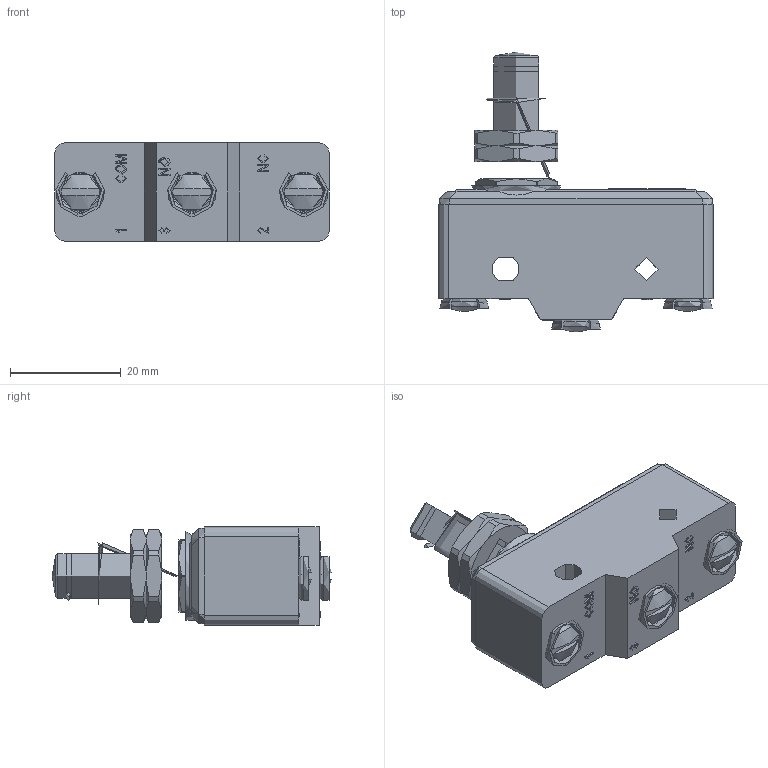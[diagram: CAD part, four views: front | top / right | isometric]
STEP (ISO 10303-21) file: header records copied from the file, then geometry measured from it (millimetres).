
FILE_DESCRIPTION((''),'2; 1');
FILE_NAME('','2026-03-27T16:27:22',(''),(''),'CST STEP Exporter V1.0','Unknown','');
FILE_SCHEMA(('CONFIG_CONTROL_DESIGN'));
Length unit declared in the file: metre
Assembly tree (13 placements, depth 2):
  (unnamed)
    (unnamed)
    (unnamed)
    (unnamed)
    (unnamed)
    (unnamed)
    (unnamed)
    (unnamed)
    (unnamed)
    (unnamed)
    (unnamed)
    (unnamed)
    (unnamed)
    (unnamed)
Bounding box: 49.4 x 50.38 x 17.7 mm (x, y, z)
Topology: 0 solids, 18 shells, 459 faces, 1274 edges, 852 vertices
Faces by surface type: plane 291, extrusion 61, cylinder 56, cone 32, torus 9, revolution 6, bspline 3, sphere 1
Full cylindrical faces by diameter (mm): 4.2 x1, 6.9 x3, 8.1 x2, 12 x1, 16 x1
Entity records: 21757 total; most frequent: CARTESIAN_POINT 6991, ORIENTED_EDGE 2360, DIRECTION 1903, EDGE_CURVE 1253, VECTOR 904, LINE 843, VERTEX_POINT 839, EDGE_LOOP 519
